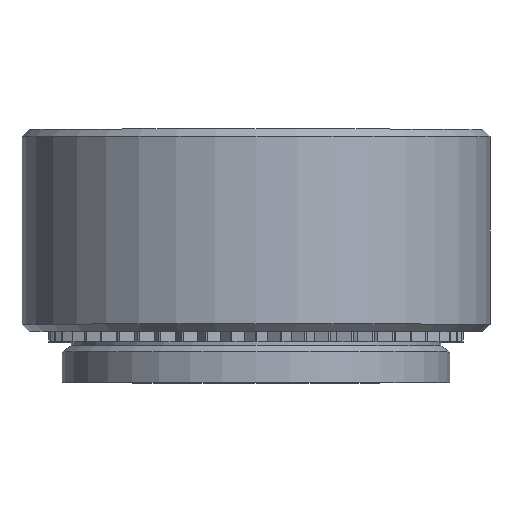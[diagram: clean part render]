
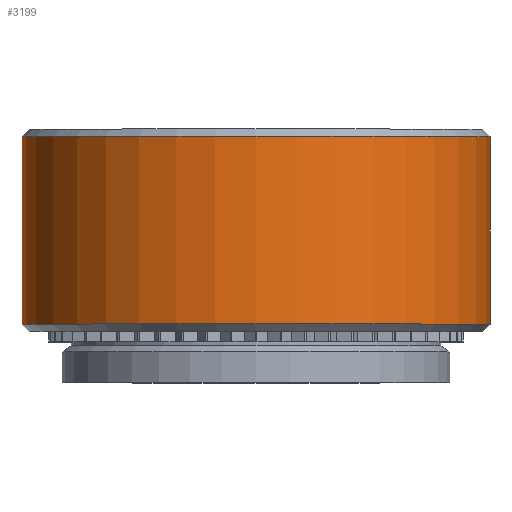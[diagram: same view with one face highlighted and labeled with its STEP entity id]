
A CAD part, top view. The second image highlights one B-rep face of the part: STEP entity #3199.
In plain terms, the highlighted cylindrical face has radius 6.325 mm (diameter 12.65 mm), a full revolution.
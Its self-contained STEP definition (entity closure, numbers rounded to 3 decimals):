
#127=CYLINDRICAL_SURFACE('',#3394,6.325);
#184=FACE_OUTER_BOUND('',#353,.T.);
#353=EDGE_LOOP('',(#2214,#2215,#2216,#2217,#2218,#2219));
#526=LINE('',#4643,#899);
#899=VECTOR('',#3695,6.325);
#1271=CIRCLE('',#3391,6.325);
#1272=CIRCLE('',#3392,6.325);
#1274=CIRCLE('',#3395,6.325);
#1275=CIRCLE('',#3396,6.325);
#1390=VERTEX_POINT('',#4631);
#1391=VERTEX_POINT('',#4632);
#1393=VERTEX_POINT('',#4639);
#1394=VERTEX_POINT('',#4640);
#1717=EDGE_CURVE('',#1390,#1391,#1271,.T.);
#1718=EDGE_CURVE('',#1391,#1390,#1272,.T.);
#1721=EDGE_CURVE('',#1393,#1394,#1274,.T.);
#1722=EDGE_CURVE('',#1394,#1393,#1275,.T.);
#1723=EDGE_CURVE('',#1394,#1391,#526,.T.);
#2214=ORIENTED_EDGE('',*,*,#1721,.F.);
#2215=ORIENTED_EDGE('',*,*,#1722,.F.);
#2216=ORIENTED_EDGE('',*,*,#1723,.T.);
#2217=ORIENTED_EDGE('',*,*,#1717,.F.);
#2218=ORIENTED_EDGE('',*,*,#1718,.F.);
#2219=ORIENTED_EDGE('',*,*,#1723,.F.);
#3199=ADVANCED_FACE('',(#184),#127,.T.);
#3391=AXIS2_PLACEMENT_3D('',#4633,#3682,#3683);
#3392=AXIS2_PLACEMENT_3D('',#4634,#3684,#3685);
#3394=AXIS2_PLACEMENT_3D('',#4638,#3689,#3690);
#3395=AXIS2_PLACEMENT_3D('',#4641,#3691,#3692);
#3396=AXIS2_PLACEMENT_3D('',#4642,#3693,#3694);
#3682=DIRECTION('center_axis',(0.,-1.,0.));
#3683=DIRECTION('ref_axis',(1.,0.,0.));
#3684=DIRECTION('center_axis',(0.,-1.,0.));
#3685=DIRECTION('ref_axis',(1.,0.,0.));
#3689=DIRECTION('center_axis',(0.,1.,0.));
#3690=DIRECTION('ref_axis',(-1.,0.,0.));
#3691=DIRECTION('center_axis',(0.,1.,0.));
#3692=DIRECTION('ref_axis',(1.,0.,0.));
#3693=DIRECTION('center_axis',(0.,1.,0.));
#3694=DIRECTION('ref_axis',(1.,0.,0.));
#3695=DIRECTION('',(0.,-1.,0.));
#4631=CARTESIAN_POINT('',(-6.325,1.58,0.));
#4632=CARTESIAN_POINT('',(6.325,1.58,0.));
#4633=CARTESIAN_POINT('Origin',(0.,1.58,0.));
#4634=CARTESIAN_POINT('Origin',(0.,1.58,0.));
#4638=CARTESIAN_POINT('Origin',(0.,4.115,0.));
#4639=CARTESIAN_POINT('',(-6.325,6.65,0.));
#4640=CARTESIAN_POINT('',(6.325,6.65,0.));
#4641=CARTESIAN_POINT('Origin',(0.,6.65,0.));
#4642=CARTESIAN_POINT('Origin',(0.,6.65,0.));
#4643=CARTESIAN_POINT('',(6.325,4.115,0.));
